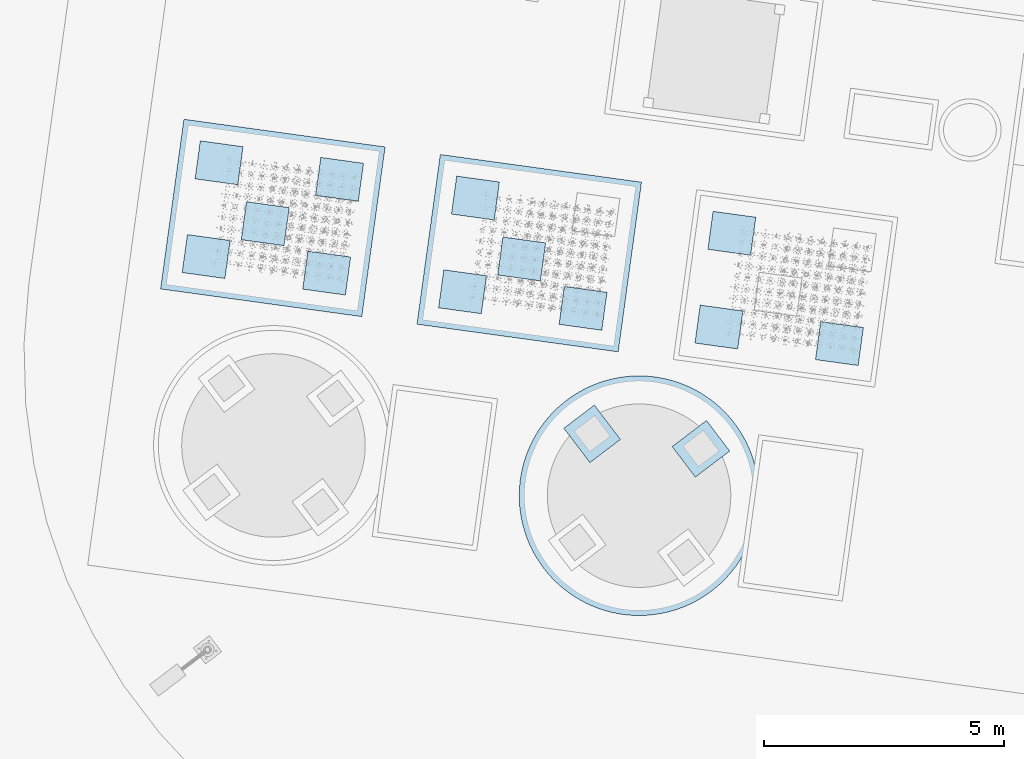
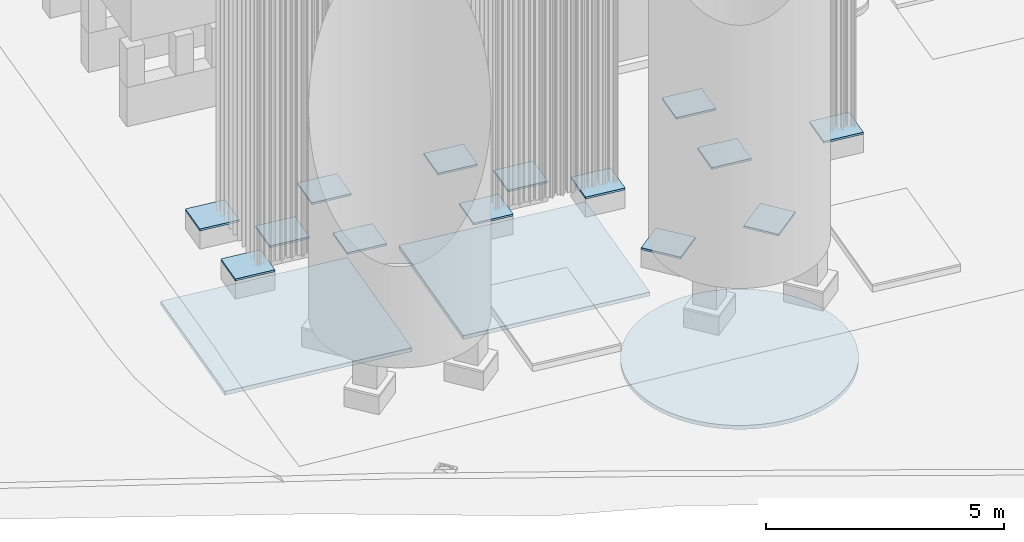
# Not in any storey, part 14 of 75: 17 slabs.
"""IFC4 model written with IfcOpenShell, lengths in metres."""

from ifc_helpers import new_model, si_unit, direction, origin, origin_with_axes, place, context, subcontext, project, spatial, triangles, material, element, save


model = new_model("IFC4")

# Units and contexts
model_context = context("Model", 3, precision=1e-05, world=origin_with_axes(), true_north=direction((0.0, 1.0)))
body_context = subcontext(model_context, "Body", "Model", "MODEL_VIEW")
ifc_project = project(units=[si_unit("AREAUNIT", "SQUARE_METRE"), si_unit("VOLUMEUNIT", "CUBIC_METRE"), si_unit("LENGTHUNIT", "METRE")], contexts=[model_context])

# Site
site_placement = place(None, origin_with_axes())
site = spatial("IfcSite", under=ifc_project, at=site_placement, Name="Parcela industrial Jinhong")

# Slabs
ifc_material_1 = material(Name="Hormigón de limpieza HA-20", Category="Material documentado")
slab_1_placement = place(None, origin())
element("IfcSlab", 1, at=slab_1_placement, inside=site, material=ifc_material_1, Name="Cimentación del depósito SV1801B · capa de limpieza", ObjectType="Cimentación industrial", PredefinedType="USERDEFINED", context=body_context, shape_type="Tessellation", body=[
    triangles([(46.469475, 31.043885, -1.0), (46.454369, 30.963482, -1.0), (46.43664, 30.883618, -1.0), (46.367921, 30.648099, -1.0), (46.416307, 30.804376, -1.0), (46.393394, 30.725841, -1.0), (46.309418, 30.49532, -1.0), (46.33992, 30.57123, -1.0), (46.241049, 30.346695, -1.0), (46.27645, 30.420448, -1.0), (46.203253, 30.27414, -1.0), (46.028978, 29.99743, -1.0), (46.163105, 30.20286, -1.0), (46.120645, 30.132933, -1.0), (46.07592, 30.064431, -1.0), (45.875362, 29.806136, -1.0), (45.979869, 29.932, -1.0), (45.928645, 29.868213, -1.0), (45.762846, 29.687375, -1.0), (45.820076, 29.745835, -1.0), (45.703734, 29.630819, -1.0), (45.51575, 29.47317, -1.0), (45.642805, 29.576228, -1.0), (45.580121, 29.523659, -1.0), (45.382228, 29.378642, -1.0), (45.449763, 29.424813, -1.0), (45.313219, 29.334705, -1.0), (45.098091, 29.216759, -1.0), (45.242809, 29.293049, -1.0), (45.171074, 29.253719, -1.0), (44.948693, 29.150096, -1.0), (45.023937, 29.182205, -1.0), (44.872437, 29.120466, -1.0), (44.795254, 29.093347, -1.0), (44.717224, 29.068768, -1.0), (44.638433, 29.046755, -1.0), (44.558963, 29.027333, -1.0), (44.317338, 28.984796, -1.0), (44.4789, 29.01052, -1.0), (44.39833, 28.996336, -1.0), (44.15444, 28.969694, -1.0), (44.236014, 28.975912, -1.0), (43.990904, 28.965278, -1.0), (44.072709, 28.966147, -1.0), (43.664715, 28.988535, -1.0), (43.909115, 28.967085, -1.0), (43.827429, 28.971567, -1.0), (43.745933, 28.978719, -1.0), (43.423594, 29.033837, -1.0), (43.583861, 29.001002, -1.0), (43.503458, 29.016108, -1.0), (43.188075, 29.102555, -1.0), (43.344352, 29.054169, -1.0), (43.265817, 29.077083, -1.0), (43.035296, 29.161058, -1.0), (43.111206, 29.130557, -1.0), (42.886672, 29.229428, -1.0), (42.960424, 29.194026, -1.0), (42.814116, 29.267223, -1.0), (42.537407, 29.441498, -1.0), (42.742836, 29.307372, -1.0), (42.672909, 29.349831, -1.0), (42.604407, 29.394556, -1.0), (42.346112, 29.595115, -1.0), (42.471977, 29.490608, -1.0), (42.408189, 29.541831, -1.0), (42.227351, 29.70763, -1.0), (42.285811, 29.6504, -1.0), (42.170796, 29.766742, -1.0), (42.013147, 29.954726, -1.0), (42.116205, 29.827671, -1.0), (42.063636, 29.890356, -1.0), (41.918618, 30.088249, -1.0), (41.96479, 30.020714, -1.0), (41.874682, 30.157257, -1.0), (41.756735, 30.372386, -1.0), (41.833026, 30.227667, -1.0), (41.793696, 30.299402, -1.0), (41.690072, 30.521784, -1.0), (41.722181, 30.446539, -1.0), (41.660442, 30.598039, -1.0), (41.633323, 30.675222, -1.0), (41.608744, 30.753252, -1.0), (41.586732, 30.832044, -1.0), (41.567309, 30.911514, -1.0), (41.524773, 31.153138, -1.0), (41.550496, 30.991577, -1.0), (41.536312, 31.072146, -1.0), (41.50967, 31.316036, -1.0), (41.515889, 31.234463, -1.0), (41.505254, 31.479573, -1.0), (41.506123, 31.397768, -1.0), (41.528511, 31.805762, -1.0), (41.507061, 31.561362, -1.0), (41.511543, 31.643047, -1.0), (41.518696, 31.724544, -1.0), (41.573813, 32.046882, -1.0), (41.540978, 31.886615, -1.0), (41.556084, 31.967018, -1.0), (41.642531, 32.282402, -1.0), (41.594146, 32.126124, -1.0), (41.617059, 32.204659, -1.0), (41.701034, 32.43518, -1.0), (41.670533, 32.35927, -1.0), (41.769404, 32.583805, -1.0), (41.734003, 32.510052, -1.0), (41.807199, 32.65636, -1.0), (41.981474, 32.93307, -1.0), (41.847348, 32.72764, -1.0), (41.889807, 32.797568, -1.0), (41.934532, 32.866069, -1.0), (42.135091, 33.124364, -1.0), (42.030584, 32.9985, -1.0), (42.081807, 33.062287, -1.0), (42.247606, 33.243125, -1.0), (42.190377, 33.184665, -1.0), (42.306718, 33.299681, -1.0), (42.494703, 33.45733, -1.0), (42.367648, 33.354272, -1.0), (42.430332, 33.406841, -1.0), (42.628225, 33.551858, -1.0), (42.56069, 33.505687, -1.0), (42.697233, 33.595795, -1.0), (42.912362, 33.713742, -1.0), (42.767643, 33.637451, -1.0), (42.839379, 33.676781, -1.0), (43.06176, 33.780404, -1.0), (42.986516, 33.748296, -1.0), (43.138015, 33.810034, -1.0), (43.215198, 33.837153, -1.0), (43.293228, 33.861732, -1.0), (43.37202, 33.883745, -1.0), (43.45149, 33.903168, -1.0), (43.693114, 33.945704, -1.0), (43.531553, 33.91998, -1.0), (43.612123, 33.934165, -1.0), (43.856012, 33.960806, -1.0), (43.774439, 33.954588, -1.0), (44.019549, 33.965222, -1.0), (43.937744, 33.964353, -1.0), (44.345738, 33.941965, -1.0), (44.101338, 33.963415, -1.0), (44.183024, 33.958933, -1.0), (44.26452, 33.951781, -1.0), (44.586859, 33.896663, -1.0), (44.426591, 33.929498, -1.0), (44.506994, 33.914392, -1.0), (44.822378, 33.827945, -1.0), (44.666101, 33.876331, -1.0), (44.744636, 33.853417, -1.0), (44.975156, 33.769442, -1.0), (44.899246, 33.799943, -1.0), (45.123781, 33.701073, -1.0), (45.050029, 33.736474, -1.0), (45.196336, 33.663277, -1.0), (45.473046, 33.489002, -1.0), (45.267616, 33.623128, -1.0), (45.337544, 33.580669, -1.0), (45.406045, 33.535944, -1.0), (45.664341, 33.335385, -1.0), (45.538476, 33.439892, -1.0), (45.602264, 33.388669, -1.0), (45.783101, 33.22287, -1.0), (45.724642, 33.2801, -1.0), (45.839657, 33.163758, -1.0), (45.997306, 32.975774, -1.0), (45.894248, 33.102829, -1.0), (45.946817, 33.040144, -1.0), (46.091835, 32.842251, -1.0), (46.045663, 32.909786, -1.0), (46.135771, 32.773243, -1.0), (46.253718, 32.558114, -1.0), (46.177427, 32.702833, -1.0), (46.216757, 32.631098, -1.0), (46.32038, 32.408716, -1.0), (46.288272, 32.483961, -1.0), (46.35001, 32.332461, -1.0), (46.377129, 32.255278, -1.0), (46.401709, 32.177248, -1.0), (46.423721, 32.098457, -1.0), (46.443144, 32.018986, -1.0), (46.48568, 31.777362, -1.0), (46.459957, 31.938923, -1.0), (46.474141, 31.858354, -1.0), (46.500782, 31.614464, -1.0), (46.494564, 31.696037, -1.0), (46.505198, 31.450928, -1.0), (46.504329, 31.532732, -1.0), (46.481941, 31.124738, -1.0), (46.503391, 31.369138, -1.0), (46.49891, 31.287453, -1.0), (46.491757, 31.205956, -1.0), (46.469475, 31.043885, -0.9), (46.454369, 30.963482, -0.9), (46.43664, 30.883618, -0.9), (46.367921, 30.648099, -0.9), (46.416307, 30.804376, -0.9), (46.393394, 30.725841, -0.9), (46.309418, 30.49532, -0.9), (46.33992, 30.57123, -0.9), (46.241049, 30.346695, -0.9), (46.27645, 30.420448, -0.9), (46.203253, 30.27414, -0.9), (46.028978, 29.99743, -0.9), (46.163105, 30.20286, -0.9), (46.120645, 30.132933, -0.9), (46.07592, 30.064431, -0.9), (45.875362, 29.806136, -0.9), (45.979869, 29.932, -0.9), (45.928645, 29.868213, -0.9), (45.762846, 29.687375, -0.9), (45.820076, 29.745835, -0.9), (45.703734, 29.630819, -0.9), (45.51575, 29.47317, -0.9), (45.642805, 29.576228, -0.9), (45.580121, 29.523659, -0.9), (45.382228, 29.378642, -0.9), (45.449763, 29.424813, -0.9), (45.313219, 29.334705, -0.9), (45.098091, 29.216759, -0.9), (45.242809, 29.293049, -0.9), (45.171074, 29.253719, -0.9), (44.948693, 29.150096, -0.9), (45.023937, 29.182205, -0.9), (44.872437, 29.120466, -0.9), (44.795254, 29.093347, -0.9), (44.717224, 29.068768, -0.9), (44.638433, 29.046755, -0.9), (44.558963, 29.027333, -0.9), (44.317338, 28.984796, -0.9), (44.4789, 29.01052, -0.9), (44.39833, 28.996336, -0.9), (44.15444, 28.969694, -0.9), (44.236014, 28.975912, -0.9), (43.990904, 28.965278, -0.9), (44.072709, 28.966147, -0.9), (43.664715, 28.988535, -0.9), (43.909115, 28.967085, -0.9), (43.827429, 28.971567, -0.9), (43.745933, 28.978719, -0.9), (43.423594, 29.033837, -0.9), (43.583861, 29.001002, -0.9), (43.503458, 29.016108, -0.9), (43.188075, 29.102555, -0.9), (43.344352, 29.054169, -0.9), (43.265817, 29.077083, -0.9), (43.035296, 29.161058, -0.9), (43.111206, 29.130557, -0.9), (42.886672, 29.229428, -0.9), (42.960424, 29.194026, -0.9), (42.814116, 29.267223, -0.9), (42.537407, 29.441498, -0.9), (42.742836, 29.307372, -0.9), (42.672909, 29.349831, -0.9), (42.604407, 29.394556, -0.9), (42.346112, 29.595115, -0.9), (42.471977, 29.490608, -0.9), (42.408189, 29.541831, -0.9), (42.227351, 29.70763, -0.9), (42.285811, 29.6504, -0.9), (42.170796, 29.766742, -0.9), (42.013147, 29.954726, -0.9), (42.116205, 29.827671, -0.9), (42.063636, 29.890356, -0.9), (41.918618, 30.088249, -0.9), (41.96479, 30.020714, -0.9), (41.874682, 30.157257, -0.9), (41.756735, 30.372386, -0.9), (41.833026, 30.227667, -0.9), (41.793696, 30.299402, -0.9), (41.690072, 30.521784, -0.9), (41.722181, 30.446539, -0.9), (41.660442, 30.598039, -0.9), (41.633323, 30.675222, -0.9), (41.608744, 30.753252, -0.9), (41.586732, 30.832044, -0.9), (41.567309, 30.911514, -0.9), (41.524773, 31.153138, -0.9), (41.550496, 30.991577, -0.9), (41.536312, 31.072146, -0.9), (41.50967, 31.316036, -0.9), (41.515889, 31.234463, -0.9), (41.505254, 31.479573, -0.9), (41.506123, 31.397768, -0.9), (41.528511, 31.805762, -0.9), (41.507061, 31.561362, -0.9), (41.511543, 31.643047, -0.9), (41.518696, 31.724544, -0.9), (41.573813, 32.046882, -0.9), (41.540978, 31.886615, -0.9), (41.556084, 31.967018, -0.9), (41.642531, 32.282402, -0.9), (41.594146, 32.126124, -0.9), (41.617059, 32.204659, -0.9), (41.701034, 32.43518, -0.9), (41.670533, 32.35927, -0.9), (41.769404, 32.583805, -0.9), (41.734003, 32.510052, -0.9), (41.807199, 32.65636, -0.9), (41.981474, 32.93307, -0.9), (41.847348, 32.72764, -0.9), (41.889807, 32.797568, -0.9), (41.934532, 32.866069, -0.9), (42.135091, 33.124364, -0.9), (42.030584, 32.9985, -0.9), (42.081807, 33.062287, -0.9), (42.247606, 33.243125, -0.9), (42.190377, 33.184665, -0.9), (42.306718, 33.299681, -0.9), (42.494703, 33.45733, -0.9), (42.367648, 33.354272, -0.9), (42.430332, 33.406841, -0.9), (42.628225, 33.551858, -0.9), (42.56069, 33.505687, -0.9), (42.697233, 33.595795, -0.9), (42.912362, 33.713742, -0.9), (42.767643, 33.637451, -0.9), (42.839379, 33.676781, -0.9), (43.06176, 33.780404, -0.9), (42.986516, 33.748296, -0.9), (43.138015, 33.810034, -0.9), (43.215198, 33.837153, -0.9), (43.293228, 33.861732, -0.9), (43.37202, 33.883745, -0.9), (43.45149, 33.903168, -0.9), (43.693114, 33.945704, -0.9), (43.531553, 33.91998, -0.9), (43.612123, 33.934165, -0.9), (43.856012, 33.960806, -0.9), (43.774439, 33.954588, -0.9), (44.019549, 33.965222, -0.9), (43.937744, 33.964353, -0.9), (44.345738, 33.941965, -0.9), (44.101338, 33.963415, -0.9), (44.183024, 33.958933, -0.9), (44.26452, 33.951781, -0.9), (44.586859, 33.896663, -0.9), (44.426591, 33.929498, -0.9), (44.506994, 33.914392, -0.9), (44.822378, 33.827945, -0.9), (44.666101, 33.876331, -0.9), (44.744636, 33.853417, -0.9), (44.975156, 33.769442, -0.9), (44.899246, 33.799943, -0.9), (45.123781, 33.701073, -0.9), (45.050029, 33.736474, -0.9), (45.196336, 33.663277, -0.9), (45.473046, 33.489002, -0.9), (45.267616, 33.623128, -0.9), (45.337544, 33.580669, -0.9), (45.406045, 33.535944, -0.9), (45.664341, 33.335385, -0.9), (45.538476, 33.439892, -0.9), (45.602264, 33.388669, -0.9), (45.783101, 33.22287, -0.9), (45.724642, 33.2801, -0.9), (45.839657, 33.163758, -0.9), (45.997306, 32.975774, -0.9), (45.894248, 33.102829, -0.9), (45.946817, 33.040144, -0.9), (46.091835, 32.842251, -0.9), (46.045663, 32.909786, -0.9), (46.135771, 32.773243, -0.9), (46.253718, 32.558114, -0.9), (46.177427, 32.702833, -0.9), (46.216757, 32.631098, -0.9), (46.32038, 32.408716, -0.9), (46.288272, 32.483961, -0.9), (46.35001, 32.332461, -0.9), (46.377129, 32.255278, -0.9), (46.401709, 32.177248, -0.9), (46.423721, 32.098457, -0.9), (46.443144, 32.018986, -0.9), (46.48568, 31.777362, -0.9), (46.459957, 31.938923, -0.9), (46.474141, 31.858354, -0.9), (46.500782, 31.614464, -0.9), (46.494564, 31.696037, -0.9), (46.505198, 31.450928, -0.9), (46.504329, 31.532732, -0.9), (46.481941, 31.124738, -0.9), (46.503391, 31.369138, -0.9), (46.49891, 31.287453, -0.9), (46.491757, 31.205956, -0.9)], [[1, 2, 3], [4, 5, 6], [7, 4, 8], [9, 7, 10], [7, 9, 11], [12, 13, 14], [14, 15, 12], [16, 17, 18], [19, 16, 20], [16, 19, 21], [22, 23, 24], [25, 22, 26], [22, 25, 27], [28, 29, 30], [31, 28, 32], [28, 31, 33], [33, 34, 35], [33, 36, 37], [38, 39, 40], [41, 38, 42], [43, 41, 44], [45, 43, 46], [46, 47, 48], [49, 45, 50], [50, 51, 49], [52, 53, 54], [55, 52, 56], [57, 55, 58], [55, 57, 59], [60, 61, 62], [62, 63, 60], [64, 65, 66], [67, 64, 68], [64, 67, 69], [70, 71, 72], [73, 70, 74], [70, 73, 75], [76, 77, 78], [79, 76, 80], [76, 79, 81], [81, 82, 83], [81, 84, 85], [86, 87, 88], [89, 86, 90], [91, 89, 92], [93, 91, 94], [94, 95, 96], [97, 93, 98], [98, 99, 97], [100, 101, 102], [103, 100, 104], [105, 103, 106], [103, 105, 107], [108, 109, 110], [110, 111, 108], [112, 113, 114], [115, 112, 116], [112, 115, 117], [118, 119, 120], [121, 118, 122], [118, 121, 123], [124, 125, 126], [127, 124, 128], [124, 127, 129], [129, 130, 131], [129, 132, 133], [134, 135, 136], [137, 134, 138], [139, 137, 140], [141, 139, 142], [142, 143, 144], [145, 141, 146], [146, 147, 145], [148, 149, 150], [151, 148, 152], [153, 151, 154], [151, 153, 155], [156, 157, 158], [158, 159, 156], [160, 161, 162], [163, 160, 164], [160, 163, 165], [166, 167, 168], [169, 166, 170], [166, 169, 171], [172, 173, 174], [175, 172, 176], [172, 175, 177], [177, 178, 179], [177, 180, 181], [182, 183, 184], [185, 182, 186], [187, 185, 188], [189, 187, 190], [190, 191, 192], [3, 189, 1], [189, 3, 5], [5, 4, 7], [13, 12, 11], [22, 11, 16], [22, 16, 21], [23, 22, 21], [29, 28, 27], [37, 28, 33], [36, 33, 35], [38, 37, 39], [38, 41, 43], [45, 46, 48], [45, 49, 53], [53, 52, 55], [61, 60, 59], [70, 59, 64], [70, 64, 69], [71, 70, 69], [77, 76, 75], [85, 76, 81], [84, 81, 83], [86, 85, 87], [86, 89, 91], [93, 94, 96], [93, 97, 101], [101, 100, 103], [109, 108, 107], [118, 107, 112], [118, 112, 117], [119, 118, 117], [125, 124, 123], [133, 124, 129], [132, 129, 131], [134, 133, 135], [134, 137, 139], [141, 142, 144], [141, 145, 149], [149, 148, 151], [157, 156, 155], [166, 155, 160], [166, 160, 165], [167, 166, 165], [173, 172, 171], [181, 172, 177], [180, 177, 179], [182, 181, 183], [182, 185, 187], [189, 190, 192], [16, 11, 12], [16, 12, 17], [28, 22, 27], [101, 91, 93], [22, 37, 38], [45, 53, 43], [64, 59, 60], [64, 60, 65], [76, 70, 75], [85, 70, 76], [70, 85, 86], [103, 86, 101], [112, 107, 108], [112, 108, 113], [124, 118, 123], [166, 70, 118], [118, 133, 134], [141, 149, 139], [160, 155, 156], [160, 156, 161], [172, 166, 171], [181, 166, 172], [166, 181, 182], [182, 7, 166], [37, 22, 28], [11, 22, 7], [38, 43, 53], [55, 38, 53], [118, 86, 103], [101, 86, 91], [22, 166, 7], [107, 118, 103], [134, 149, 151], [134, 151, 166], [5, 187, 189], [5, 182, 187], [55, 22, 38], [22, 55, 70], [59, 70, 55], [133, 118, 124], [149, 134, 139], [7, 182, 5], [86, 118, 70], [70, 166, 22], [155, 166, 151], [166, 118, 134], [195, 194, 193], [198, 197, 196], [200, 196, 199], [202, 199, 201], [203, 201, 199], [206, 205, 204], [204, 207, 206], [210, 209, 208], [212, 208, 211], [213, 211, 208], [216, 215, 214], [218, 214, 217], [219, 217, 214], [222, 221, 220], [224, 220, 223], [225, 223, 220], [227, 226, 225], [229, 228, 225], [232, 231, 230], [234, 230, 233], [236, 233, 235], [238, 235, 237], [240, 239, 238], [242, 237, 241], [241, 243, 242], [246, 245, 244], [248, 244, 247], [250, 247, 249], [251, 249, 247], [254, 253, 252], [252, 255, 254], [258, 257, 256], [260, 256, 259], [261, 259, 256], [264, 263, 262], [266, 262, 265], [267, 265, 262], [270, 269, 268], [272, 268, 271], [273, 271, 268], [275, 274, 273], [277, 276, 273], [280, 279, 278], [282, 278, 281], [284, 281, 283], [286, 283, 285], [288, 287, 286], [290, 285, 289], [289, 291, 290], [294, 293, 292], [296, 292, 295], [298, 295, 297], [299, 297, 295], [302, 301, 300], [300, 303, 302], [306, 305, 304], [308, 304, 307], [309, 307, 304], [312, 311, 310], [314, 310, 313], [315, 313, 310], [318, 317, 316], [320, 316, 319], [321, 319, 316], [323, 322, 321], [325, 324, 321], [328, 327, 326], [330, 326, 329], [332, 329, 331], [334, 331, 333], [336, 335, 334], [338, 333, 337], [337, 339, 338], [342, 341, 340], [344, 340, 343], [346, 343, 345], [347, 345, 343], [350, 349, 348], [348, 351, 350], [354, 353, 352], [356, 352, 355], [357, 355, 352], [360, 359, 358], [362, 358, 361], [363, 361, 358], [366, 365, 364], [368, 364, 367], [369, 367, 364], [371, 370, 369], [373, 372, 369], [376, 375, 374], [378, 374, 377], [380, 377, 379], [382, 379, 381], [384, 383, 382], [193, 381, 195], [197, 195, 381], [199, 196, 197], [203, 204, 205], [208, 203, 214], [213, 208, 214], [213, 214, 215], [219, 220, 221], [225, 220, 229], [227, 225, 228], [231, 229, 230], [235, 233, 230], [240, 238, 237], [245, 241, 237], [247, 244, 245], [251, 252, 253], [256, 251, 262], [261, 256, 262], [261, 262, 263], [267, 268, 269], [273, 268, 277], [275, 273, 276], [279, 277, 278], [283, 281, 278], [288, 286, 285], [293, 289, 285], [295, 292, 293], [299, 300, 301], [304, 299, 310], [309, 304, 310], [309, 310, 311], [315, 316, 317], [321, 316, 325], [323, 321, 324], [327, 325, 326], [331, 329, 326], [336, 334, 333], [341, 337, 333], [343, 340, 341], [347, 348, 349], [352, 347, 358], [357, 352, 358], [357, 358, 359], [363, 364, 365], [369, 364, 373], [371, 369, 372], [375, 373, 374], [379, 377, 374], [384, 382, 381], [204, 203, 208], [209, 204, 208], [219, 214, 220], [285, 283, 293], [230, 229, 214], [235, 245, 237], [252, 251, 256], [257, 252, 256], [267, 262, 268], [268, 262, 277], [278, 277, 262], [293, 278, 295], [300, 299, 304], [305, 300, 304], [315, 310, 316], [310, 262, 358], [326, 325, 310], [331, 341, 333], [348, 347, 352], [353, 348, 352], [363, 358, 364], [364, 358, 373], [374, 373, 358], [358, 199, 374], [220, 214, 229], [199, 214, 203], [245, 235, 230], [245, 230, 247], [295, 278, 310], [283, 278, 293], [199, 358, 214], [295, 310, 299], [343, 341, 326], [358, 343, 326], [381, 379, 197], [379, 374, 197], [230, 214, 247], [262, 247, 214], [247, 262, 251], [316, 310, 325], [331, 326, 341], [197, 374, 199], [262, 310, 278], [214, 358, 262], [343, 358, 347], [326, 310, 358], [193, 194, 1], [1, 194, 2], [194, 195, 2], [2, 195, 3], [195, 197, 3], [3, 197, 5], [198, 196, 6], [6, 196, 4], [197, 198, 5], [5, 198, 6], [196, 200, 4], [4, 200, 8], [200, 199, 8], [8, 199, 7], [199, 202, 7], [7, 202, 10], [202, 201, 10], [10, 201, 9], [201, 203, 9], [9, 203, 11], [203, 205, 11], [11, 205, 13], [205, 206, 13], [13, 206, 14], [207, 204, 15], [15, 204, 12], [206, 207, 14], [14, 207, 15], [204, 209, 12], [12, 209, 17], [210, 208, 18], [18, 208, 16], [209, 210, 17], [17, 210, 18], [208, 212, 16], [16, 212, 20], [212, 211, 20], [20, 211, 19], [211, 213, 19], [19, 213, 21], [213, 215, 21], [21, 215, 23], [216, 214, 24], [24, 214, 22], [215, 216, 23], [23, 216, 24], [214, 218, 22], [22, 218, 26], [218, 217, 26], [26, 217, 25], [217, 219, 25], [25, 219, 27], [219, 221, 27], [27, 221, 29], [222, 220, 30], [30, 220, 28], [221, 222, 29], [29, 222, 30], [220, 224, 28], [28, 224, 32], [224, 223, 32], [32, 223, 31], [223, 225, 31], [31, 225, 33], [225, 226, 33], [33, 226, 34], [226, 227, 34], [34, 227, 35], [227, 228, 35], [35, 228, 36], [228, 229, 36], [36, 229, 37], [229, 231, 37], [37, 231, 39], [232, 230, 40], [40, 230, 38], [231, 232, 39], [39, 232, 40], [230, 234, 38], [38, 234, 42], [234, 233, 42], [42, 233, 41], [233, 236, 41], [41, 236, 44], [236, 235, 44], [44, 235, 43], [235, 238, 43], [43, 238, 46], [238, 239, 46], [46, 239, 47], [240, 237, 48], [48, 237, 45], [239, 240, 47], [47, 240, 48], [237, 242, 45], [45, 242, 50], [243, 241, 51], [51, 241, 49], [242, 243, 50], [50, 243, 51], [241, 245, 49], [49, 245, 53], [246, 244, 54], [54, 244, 52], [245, 246, 53], [53, 246, 54], [244, 248, 52], [52, 248, 56], [248, 247, 56], [56, 247, 55], [247, 250, 55], [55, 250, 58], [250, 249, 58], [58, 249, 57], [249, 251, 57], [57, 251, 59], [251, 253, 59], [59, 253, 61], [253, 254, 61], [61, 254, 62], [255, 252, 63], [63, 252, 60], [254, 255, 62], [62, 255, 63], [252, 257, 60], [60, 257, 65], [258, 256, 66], [66, 256, 64], [257, 258, 65], [65, 258, 66], [256, 260, 64], [64, 260, 68], [260, 259, 68], [68, 259, 67], [259, 261, 67], [67, 261, 69], [261, 263, 69], [69, 263, 71], [264, 262, 72], [72, 262, 70], [263, 264, 71], [71, 264, 72], [262, 266, 70], [70, 266, 74], [266, 265, 74], [74, 265, 73], [265, 267, 73], [73, 267, 75], [267, 269, 75], [75, 269, 77], [270, 268, 78], [78, 268, 76], [269, 270, 77], [77, 270, 78], [268, 272, 76], [76, 272, 80], [272, 271, 80], [80, 271, 79], [271, 273, 79], [79, 273, 81], [273, 274, 81], [81, 274, 82], [274, 275, 82], [82, 275, 83], [275, 276, 83], [83, 276, 84], [276, 277, 84], [84, 277, 85], [277, 279, 85], [85, 279, 87], [280, 278, 88], [88, 278, 86], [279, 280, 87], [87, 280, 88], [278, 282, 86], [86, 282, 90], [282, 281, 90], [90, 281, 89], [281, 284, 89], [89, 284, 92], [284, 283, 92], [92, 283, 91], [283, 286, 91], [91, 286, 94], [286, 287, 94], [94, 287, 95], [288, 285, 96], [96, 285, 93], [287, 288, 95], [95, 288, 96], [285, 290, 93], [93, 290, 98], [291, 289, 99], [99, 289, 97], [290, 291, 98], [98, 291, 99], [289, 293, 97], [97, 293, 101], [294, 292, 102], [102, 292, 100], [293, 294, 101], [101, 294, 102], [292, 296, 100], [100, 296, 104], [296, 295, 104], [104, 295, 103], [295, 298, 103], [103, 298, 106], [298, 297, 106], [106, 297, 105], [297, 299, 105], [105, 299, 107], [299, 301, 107], [107, 301, 109], [301, 302, 109], [109, 302, 110], [303, 300, 111], [111, 300, 108], [302, 303, 110], [110, 303, 111], [300, 305, 108], [108, 305, 113], [306, 304, 114], [114, 304, 112], [305, 306, 113], [113, 306, 114], [304, 308, 112], [112, 308, 116], [308, 307, 116], [116, 307, 115], [307, 309, 115], [115, 309, 117], [309, 311, 117], [117, 311, 119], [312, 310, 120], [120, 310, 118], [311, 312, 119], [119, 312, 120], [310, 314, 118], [118, 314, 122], [314, 313, 122], [122, 313, 121], [313, 315, 121], [121, 315, 123], [315, 317, 123], [123, 317, 125], [318, 316, 126], [126, 316, 124], [317, 318, 125], [125, 318, 126], [316, 320, 124], [124, 320, 128], [320, 319, 128], [128, 319, 127], [319, 321, 127], [127, 321, 129], [321, 322, 129], [129, 322, 130], [322, 323, 130], [130, 323, 131], [323, 324, 131], [131, 324, 132], [324, 325, 132], [132, 325, 133], [325, 327, 133], [133, 327, 135], [328, 326, 136], [136, 326, 134], [327, 328, 135], [135, 328, 136], [326, 330, 134], [134, 330, 138], [330, 329, 138], [138, 329, 137], [329, 332, 137], [137, 332, 140], [332, 331, 140], [140, 331, 139], [331, 334, 139], [139, 334, 142], [334, 335, 142], [142, 335, 143], [336, 333, 144], [144, 333, 141], [335, 336, 143], [143, 336, 144], [333, 338, 141], [141, 338, 146], [339, 337, 147], [147, 337, 145], [338, 339, 146], [146, 339, 147], [337, 341, 145], [145, 341, 149], [342, 340, 150], [150, 340, 148], [341, 342, 149], [149, 342, 150], [340, 344, 148], [148, 344, 152], [344, 343, 152], [152, 343, 151], [343, 346, 151], [151, 346, 154], [346, 345, 154], [154, 345, 153], [345, 347, 153], [153, 347, 155], [347, 349, 155], [155, 349, 157], [349, 350, 157], [157, 350, 158], [351, 348, 159], [159, 348, 156], [350, 351, 158], [158, 351, 159], [348, 353, 156], [156, 353, 161], [354, 352, 162], [162, 352, 160], [353, 354, 161], [161, 354, 162], [352, 356, 160], [160, 356, 164], [356, 355, 164], [164, 355, 163], [355, 357, 163], [163, 357, 165], [357, 359, 165], [165, 359, 167], [360, 358, 168], [168, 358, 166], [359, 360, 167], [167, 360, 168], [358, 362, 166], [166, 362, 170], [362, 361, 170], [170, 361, 169], [361, 363, 169], [169, 363, 171], [363, 365, 171], [171, 365, 173], [366, 364, 174], [174, 364, 172], [365, 366, 173], [173, 366, 174], [364, 368, 172], [172, 368, 176], [368, 367, 176], [176, 367, 175], [367, 369, 175], [175, 369, 177], [369, 370, 177], [177, 370, 178], [370, 371, 178], [178, 371, 179], [371, 372, 179], [179, 372, 180], [372, 373, 180], [180, 373, 181], [373, 375, 181], [181, 375, 183], [376, 374, 184], [184, 374, 182], [375, 376, 183], [183, 376, 184], [374, 378, 182], [182, 378, 186], [378, 377, 186], [186, 377, 185], [377, 380, 185], [185, 380, 188], [380, 379, 188], [188, 379, 187], [381, 193, 189], [189, 193, 1], [379, 382, 187], [187, 382, 190], [382, 383, 190], [190, 383, 191], [384, 381, 192], [192, 381, 189], [383, 384, 191], [191, 384, 192]], closed=True),
])
ifc_material_2 = material(Name="Mortero HA-35 de alta resistencia sin retracción", Category="Material documentado")
slab_2_placement = place(None, origin())
element("IfcSlab", 2, at=slab_2_placement, inside=site, material=ifc_material_2, Name="Cimentación del depósito SV1801B · mortero de apoyo 1", ObjectType="Cimentación industrial", PredefinedType="USERDEFINED", context=body_context, shape_type="Tessellation", body=[
    triangles([(45.412977, 33.034689, 1.55), (45.896343, 32.397226, 1.55), (45.179198, 31.85344, 1.55), (44.695832, 32.490903, 1.55), (45.412977, 33.034689, 1.6), (45.896343, 32.397226, 1.6), (45.179198, 31.85344, 1.6), (44.695832, 32.490903, 1.6)], [[1, 2, 3], [3, 4, 1], [7, 6, 5], [5, 8, 7], [5, 6, 1], [1, 6, 2], [6, 7, 2], [2, 7, 3], [8, 5, 4], [4, 5, 1], [7, 8, 3], [3, 8, 4]], closed=True),
])
slab_3_placement = place(None, origin())
element("IfcSlab", 3, at=slab_3_placement, inside=site, material=ifc_material_2, Name="Cimentación del depósito SV1801B · mortero de apoyo 2", ObjectType="Cimentación industrial", PredefinedType="USERDEFINED", context=body_context, shape_type="Tessellation", body=[
    triangles([(42.979573, 32.155856, 1.55), (42.435788, 32.873001, 1.55), (43.073251, 33.356366, 1.55), (43.617036, 32.639222, 1.55), (42.979573, 32.155856, 1.6), (42.435788, 32.873001, 1.6), (43.073251, 33.356366, 1.6), (43.617036, 32.639222, 1.6)], [[1, 2, 3], [3, 4, 1], [7, 6, 5], [5, 8, 7], [5, 6, 1], [1, 6, 2], [6, 7, 2], [2, 7, 3], [8, 5, 4], [4, 5, 1], [7, 8, 3], [3, 8, 4]], closed=True),
])
slab_4_placement = place(None, origin())
element("IfcSlab", 4, at=slab_4_placement, inside=site, material=ifc_material_1, Name="Cimentación del vaporizador LV1802A · capa de limpieza", ObjectType="Cimentación industrial", PredefinedType="USERDEFINED", context=body_context, shape_type="Tessellation", body=[
    triangles([(38.707069, 38.7427, -1.0), (38.220276, 35.202006, -1.0), (34.021771, 35.779239, -1.0), (34.508564, 39.319932, -1.0), (38.707069, 38.7427, -0.9), (38.220276, 35.202006, -0.9), (34.021771, 35.779239, -0.9), (34.508564, 39.319932, -0.9)], [[1, 2, 3], [3, 4, 1], [7, 6, 5], [5, 8, 7], [5, 6, 1], [1, 6, 2], [6, 7, 2], [2, 7, 3], [8, 5, 4], [4, 5, 1], [7, 8, 3], [3, 8, 4]], closed=True),
])
slab_5_placement = place(None, origin())
element("IfcSlab", 5, at=slab_5_placement, inside=site, material=ifc_material_2, Name="Cimentación del vaporizador LV1802A · mortero de apoyo 1", ObjectType="Cimentación industrial", PredefinedType="USERDEFINED", context=body_context, shape_type="Tessellation", body=[
    triangles([(35.741967, 38.746595, 1.565), (35.633004, 37.95405, 1.565), (34.741391, 38.076633, 1.565), (34.850355, 38.869178, 1.565), (35.741967, 38.746595, 1.615), (35.633004, 37.95405, 1.615), (34.741391, 38.076633, 1.615), (34.850355, 38.869178, 1.615)], [[1, 2, 3], [3, 4, 1], [7, 6, 5], [5, 8, 7], [5, 6, 1], [1, 6, 2], [6, 7, 2], [2, 7, 3], [8, 5, 4], [4, 5, 1], [7, 8, 3], [3, 8, 4]], closed=True),
])
slab_6_placement = place(None, origin())
element("IfcSlab", 6, at=slab_6_placement, inside=site, material=ifc_material_2, Name="Cimentación del vaporizador LV1802A · mortero de apoyo 2", ObjectType="Cimentación industrial", PredefinedType="USERDEFINED", context=body_context, shape_type="Tessellation", body=[
    triangles([(38.256315, 38.400909, 1.565), (38.147352, 37.608364, 1.565), (37.255739, 37.730948, 1.565), (37.364702, 38.523492, 1.565), (38.256315, 38.400909, 1.615), (38.147352, 37.608364, 1.615), (37.255739, 37.730948, 1.615), (37.364702, 38.523492, 1.615)], [[1, 2, 3], [3, 4, 1], [7, 6, 5], [5, 8, 7], [5, 6, 1], [1, 6, 2], [6, 7, 2], [2, 7, 3], [8, 5, 4], [4, 5, 1], [7, 8, 3], [3, 8, 4]], closed=True),
])
slab_7_placement = place(None, origin())
element("IfcSlab", 7, at=slab_7_placement, inside=site, material=ifc_material_2, Name="Cimentación del vaporizador LV1802A · mortero de apoyo 3", ObjectType="Cimentación industrial", PredefinedType="USERDEFINED", context=body_context, shape_type="Tessellation", body=[
    triangles([(37.987449, 36.445305, 1.565), (37.878486, 35.65276, 1.565), (36.986873, 35.775344, 1.565), (37.095836, 36.567889, 1.565), (37.987449, 36.445305, 1.615), (37.878486, 35.65276, 1.615), (36.986873, 35.775344, 1.615), (37.095836, 36.567889, 1.615)], [[1, 2, 3], [3, 4, 1], [7, 6, 5], [5, 8, 7], [5, 6, 1], [1, 6, 2], [6, 7, 2], [2, 7, 3], [8, 5, 4], [4, 5, 1], [7, 8, 3], [3, 8, 4]], closed=True),
])
slab_8_placement = place(None, origin())
element("IfcSlab", 8, at=slab_8_placement, inside=site, material=ifc_material_2, Name="Cimentación del vaporizador LV1802A · mortero de apoyo 4", ObjectType="Cimentación industrial", PredefinedType="USERDEFINED", context=body_context, shape_type="Tessellation", body=[
    triangles([(35.473101, 36.790991, 1.565), (35.364138, 35.998446, 1.565), (34.472525, 36.121029, 1.565), (34.581488, 36.913574, 1.565), (35.473101, 36.790991, 1.615), (35.364138, 35.998446, 1.615), (34.472525, 36.121029, 1.615), (34.581488, 36.913574, 1.615)], [[1, 2, 3], [3, 4, 1], [7, 6, 5], [5, 8, 7], [5, 6, 1], [1, 6, 2], [6, 7, 2], [2, 7, 3], [8, 5, 4], [4, 5, 1], [7, 8, 3], [3, 8, 4]], closed=True),
])
slab_9_placement = place(None, origin())
element("IfcSlab", 9, at=slab_9_placement, inside=site, material=ifc_material_2, Name="Cimentación del vaporizador LV1802A · mortero de apoyo 5", ObjectType="Cimentación industrial", PredefinedType="USERDEFINED", context=body_context, shape_type="Tessellation", body=[
    triangles([(36.705817, 37.475469, 1.565), (36.596854, 36.682924, 1.565), (35.705241, 36.805507, 1.565), (35.814204, 37.598052, 1.565), (36.705817, 37.475469, 1.615), (36.596854, 36.682924, 1.615), (35.705241, 36.805507, 1.615), (35.814204, 37.598052, 1.615)], [[1, 2, 3], [3, 4, 1], [7, 6, 5], [5, 8, 7], [5, 6, 1], [1, 6, 2], [6, 7, 2], [2, 7, 3], [8, 5, 4], [4, 5, 1], [7, 8, 3], [3, 8, 4]], closed=True),
])
slab_10_placement = place(None, origin())
element("IfcSlab", 10, at=slab_10_placement, inside=site, material=ifc_material_1, Name="Cimentación del vaporizador LV1802B · capa de limpieza", ObjectType="Cimentación industrial", PredefinedType="USERDEFINED", context=body_context, shape_type="Tessellation", body=[
    triangles([(44.056746, 38.007199, -1.0), (43.569953, 34.466505, -1.0), (39.371447, 35.043737, -1.0), (39.85824, 38.584431, -1.0), (44.056746, 38.007199, -0.9), (43.569953, 34.466505, -0.9), (39.371447, 35.043737, -0.9), (39.85824, 38.584431, -0.9)], [[1, 2, 3], [3, 4, 1], [7, 6, 5], [5, 8, 7], [5, 6, 1], [1, 6, 2], [6, 7, 2], [2, 7, 3], [8, 5, 4], [4, 5, 1], [7, 8, 3], [3, 8, 4]], closed=True),
])
slab_11_placement = place(None, origin())
element("IfcSlab", 11, at=slab_11_placement, inside=site, material=ifc_material_2, Name="Cimentación del vaporizador LV1802B · mortero de apoyo 1", ObjectType="Cimentación industrial", PredefinedType="USERDEFINED", context=body_context, shape_type="Tessellation", body=[
    triangles([(41.091644, 38.011093, 1.565), (40.982681, 37.218549, 1.565), (40.091068, 37.341132, 1.565), (40.200031, 38.133677, 1.565), (41.091644, 38.011093, 1.615), (40.982681, 37.218549, 1.615), (40.091068, 37.341132, 1.615), (40.200031, 38.133677, 1.615)], [[1, 2, 3], [3, 4, 1], [7, 6, 5], [5, 8, 7], [5, 6, 1], [1, 6, 2], [6, 7, 2], [2, 7, 3], [8, 5, 4], [4, 5, 1], [7, 8, 3], [3, 8, 4]], closed=True),
])
slab_12_placement = place(None, origin())
element("IfcSlab", 12, at=slab_12_placement, inside=site, material=ifc_material_2, Name="Cimentación del vaporizador LV1802B · mortero de apoyo 3", ObjectType="Cimentación industrial", PredefinedType="USERDEFINED", context=body_context, shape_type="Tessellation", body=[
    triangles([(43.337125, 35.709804, 1.565), (43.228162, 34.917259, 1.565), (42.336549, 35.039843, 1.565), (42.445512, 35.832387, 1.565), (43.337125, 35.709804, 1.615), (43.228162, 34.917259, 1.615), (42.336549, 35.039843, 1.615), (42.445512, 35.832387, 1.615)], [[1, 2, 3], [3, 4, 1], [7, 6, 5], [5, 8, 7], [5, 6, 1], [1, 6, 2], [6, 7, 2], [2, 7, 3], [8, 5, 4], [4, 5, 1], [7, 8, 3], [3, 8, 4]], closed=True),
])
slab_13_placement = place(None, origin())
element("IfcSlab", 13, at=slab_13_placement, inside=site, material=ifc_material_2, Name="Cimentación del vaporizador LV1802B · mortero de apoyo 4", ObjectType="Cimentación industrial", PredefinedType="USERDEFINED", context=body_context, shape_type="Tessellation", body=[
    triangles([(40.822777, 36.055489, 1.565), (40.713814, 35.262945, 1.565), (39.822201, 35.385528, 1.565), (39.931164, 36.178073, 1.565), (40.822777, 36.055489, 1.615), (40.713814, 35.262945, 1.615), (39.822201, 35.385528, 1.615), (39.931164, 36.178073, 1.615)], [[1, 2, 3], [3, 4, 1], [7, 6, 5], [5, 8, 7], [5, 6, 1], [1, 6, 2], [6, 7, 2], [2, 7, 3], [8, 5, 4], [4, 5, 1], [7, 8, 3], [3, 8, 4]], closed=True),
])
slab_14_placement = place(None, origin())
element("IfcSlab", 14, at=slab_14_placement, inside=site, material=ifc_material_2, Name="Cimentación del vaporizador LV1802B · mortero de apoyo 5", ObjectType="Cimentación industrial", PredefinedType="USERDEFINED", context=body_context, shape_type="Tessellation", body=[
    triangles([(42.055494, 36.739967, 1.565), (41.94653, 35.947423, 1.565), (41.054918, 36.070006, 1.565), (41.163881, 36.862551, 1.565), (42.055494, 36.739967, 1.615), (41.94653, 35.947423, 1.615), (41.054918, 36.070006, 1.615), (41.163881, 36.862551, 1.615)], [[1, 2, 3], [3, 4, 1], [7, 6, 5], [5, 8, 7], [5, 6, 1], [1, 6, 2], [6, 7, 2], [2, 7, 3], [8, 5, 4], [4, 5, 1], [7, 8, 3], [3, 8, 4]], closed=True),
])
slab_15_placement = place(None, origin())
element("IfcSlab", 15, at=slab_15_placement, inside=site, material=ifc_material_2, Name="Cimentación del vaporizador LV1802C · mortero de apoyo 1", ObjectType="Cimentación industrial", PredefinedType="USERDEFINED", context=body_context, shape_type="Tessellation", body=[
    triangles([(46.44132, 37.275592, 1.565), (46.332357, 36.483047, 1.565), (45.440744, 36.605631, 1.565), (45.549707, 37.398176, 1.565), (46.44132, 37.275592, 1.615), (46.332357, 36.483047, 1.615), (45.440744, 36.605631, 1.615), (45.549707, 37.398176, 1.615)], [[1, 2, 3], [3, 4, 1], [7, 6, 5], [5, 8, 7], [5, 6, 1], [1, 6, 2], [6, 7, 2], [2, 7, 3], [8, 5, 4], [4, 5, 1], [7, 8, 3], [3, 8, 4]], closed=True),
])
slab_16_placement = place(None, origin())
element("IfcSlab", 16, at=slab_16_placement, inside=site, material=ifc_material_2, Name="Cimentación del vaporizador LV1802C · mortero de apoyo 3", ObjectType="Cimentación industrial", PredefinedType="USERDEFINED", context=body_context, shape_type="Tessellation", body=[
    triangles([(48.686802, 34.974303, 1.565), (48.577838, 34.181758, 1.565), (47.686226, 34.304341, 1.565), (47.795189, 35.096886, 1.565), (48.686802, 34.974303, 1.615), (48.577838, 34.181758, 1.615), (47.686226, 34.304341, 1.615), (47.795189, 35.096886, 1.615)], [[1, 2, 3], [3, 4, 1], [7, 6, 5], [5, 8, 7], [5, 6, 1], [1, 6, 2], [6, 7, 2], [2, 7, 3], [8, 5, 4], [4, 5, 1], [7, 8, 3], [3, 8, 4]], closed=True),
])
slab_17_placement = place(None, origin())
element("IfcSlab", 17, at=slab_17_placement, inside=site, material=ifc_material_2, Name="Cimentación del vaporizador LV1802C · mortero de apoyo 4", ObjectType="Cimentación industrial", PredefinedType="USERDEFINED", context=body_context, shape_type="Tessellation", body=[
    triangles([(46.172454, 35.319988, 1.565), (46.06349, 34.527444, 1.565), (45.171878, 34.650027, 1.565), (45.280841, 35.442572, 1.565), (46.172454, 35.319988, 1.615), (46.06349, 34.527444, 1.615), (45.171878, 34.650027, 1.615), (45.280841, 35.442572, 1.615)], [[1, 2, 3], [3, 4, 1], [7, 6, 5], [5, 8, 7], [5, 6, 1], [1, 6, 2], [6, 7, 2], [2, 7, 3], [8, 5, 4], [4, 5, 1], [7, 8, 3], [3, 8, 4]], closed=True),
])

save(model, "model.ifc")
